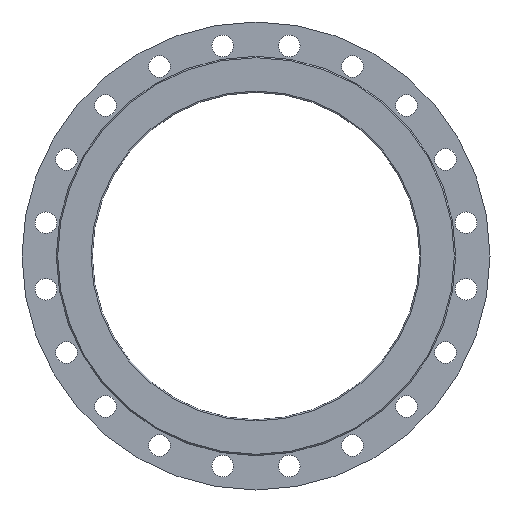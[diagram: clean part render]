
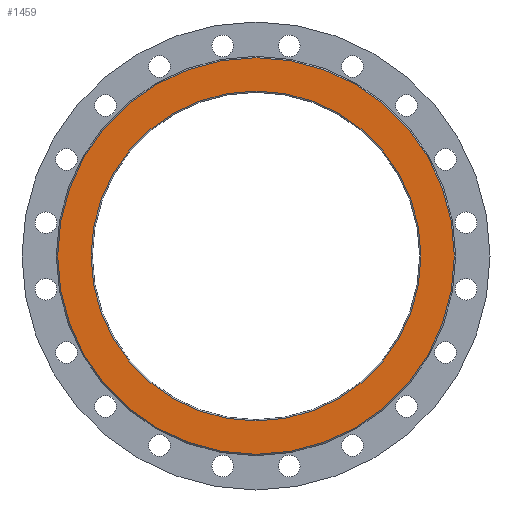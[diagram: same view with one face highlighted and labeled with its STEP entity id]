
A CAD part, left-side view. The second image highlights one B-rep face of the part: STEP entity #1459.
In plain terms, the highlighted planar face has unit normal (-1, 0, 0).
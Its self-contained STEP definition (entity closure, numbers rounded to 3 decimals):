
#303 = EDGE_CURVE ( 'NONE', #335, #337, #2674, .T. ) ;
#335 = VERTEX_POINT ( 'NONE', #3047 ) ;
#337 = VERTEX_POINT ( 'NONE', #3033 ) ;
#532 = VERTEX_POINT ( 'NONE', #1647 ) ;
#536 = EDGE_CURVE ( 'NONE', #559, #532, #1650, .T. ) ;
#559 = VERTEX_POINT ( 'NONE', #1731 ) ;
#1413 = ORIENTED_EDGE ( 'NONE', *, *, #1483, .T. ) ;
#1457 = EDGE_LOOP ( 'NONE', ( #1413, #1476 ) ) ;
#1459 = ADVANCED_FACE ( 'NONE', ( #3188, #3186 ), #3185, .F. ) ;
#1476 = ORIENTED_EDGE ( 'NONE', *, *, #303, .T. ) ;
#1477 = ORIENTED_EDGE ( 'NONE', *, *, #536, .T. ) ;
#1481 = EDGE_LOOP ( 'NONE', ( #1477, #1494 ) ) ;
#1482 = EDGE_CURVE ( 'NONE', #532, #559, #3175, .T. ) ;
#1483 = EDGE_CURVE ( 'NONE', #337, #335, #3167, .T. ) ;
#1494 = ORIENTED_EDGE ( 'NONE', *, *, #1482, .T. ) ;
#1647 = CARTESIAN_POINT ( 'NONE',  ( -100., 0., 252. ) ) ;
#1648 = CARTESIAN_POINT ( 'NONE',  ( -100., 0., 0. ) ) ;
#1650 = CIRCLE ( 'NONE', #1655, 252. ) ;
#1655 = AXIS2_PLACEMENT_3D ( 'NONE', #1648, #1656, #1657 ) ;
#1656 = DIRECTION ( 'NONE',  ( 1., 0., 0. ) ) ;
#1657 = DIRECTION ( 'NONE',  ( 0., 0., -1. ) ) ;
#1731 = CARTESIAN_POINT ( 'NONE',  ( -100., 0., -252. ) ) ;
#2674 = CIRCLE ( 'NONE', #2709, 303. ) ;
#2694 = CARTESIAN_POINT ( 'NONE',  ( -100., 0., 0. ) ) ;
#2709 = AXIS2_PLACEMENT_3D ( 'NONE', #2694, #2713, #2746 ) ;
#2713 = DIRECTION ( 'NONE',  ( -1., 0., 0. ) ) ;
#2746 = DIRECTION ( 'NONE',  ( 0., 0., -1. ) ) ;
#3033 = CARTESIAN_POINT ( 'NONE',  ( -100., 0., -303. ) ) ;
#3047 = CARTESIAN_POINT ( 'NONE',  ( -100., 0., 303. ) ) ;
#3164 = DIRECTION ( 'NONE',  ( 0., 0., -1. ) ) ;
#3165 = DIRECTION ( 'NONE',  ( -1., 0., 0. ) ) ;
#3166 = CARTESIAN_POINT ( 'NONE',  ( -100., 0., 0. ) ) ;
#3167 = CIRCLE ( 'NONE', #3187, 303. ) ;
#3171 = DIRECTION ( 'NONE',  ( 0., 0., -1. ) ) ;
#3172 = DIRECTION ( 'NONE',  ( 1., 0., 0. ) ) ;
#3173 = CARTESIAN_POINT ( 'NONE',  ( -100., 0., 0. ) ) ;
#3174 = AXIS2_PLACEMENT_3D ( 'NONE', #3173, #3172, #3171 ) ;
#3175 = CIRCLE ( 'NONE', #3174, 252. ) ;
#3176 = DIRECTION ( 'NONE',  ( 0., 0., -1. ) ) ;
#3177 = DIRECTION ( 'NONE',  ( 1., 0., 0. ) ) ;
#3183 = CARTESIAN_POINT ( 'NONE',  ( -100., 305., 0. ) ) ;
#3184 = AXIS2_PLACEMENT_3D ( 'NONE', #3183, #3177, #3176 ) ;
#3185 = PLANE ( 'NONE',  #3184 ) ;
#3186 = FACE_BOUND ( 'NONE', #1481, .T. ) ;
#3187 = AXIS2_PLACEMENT_3D ( 'NONE', #3166, #3165, #3164 ) ;
#3188 = FACE_OUTER_BOUND ( 'NONE', #1457, .T. ) ;
